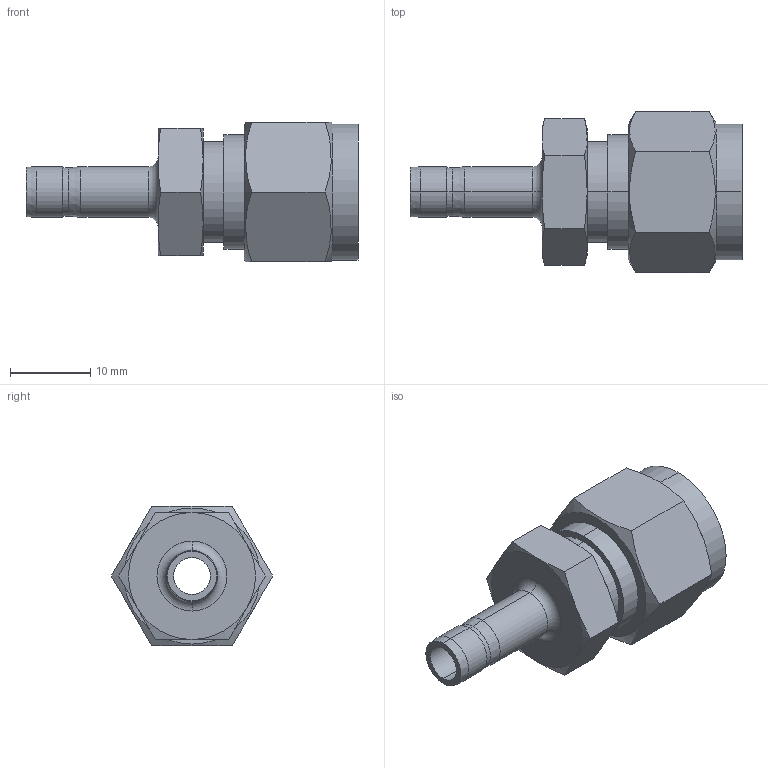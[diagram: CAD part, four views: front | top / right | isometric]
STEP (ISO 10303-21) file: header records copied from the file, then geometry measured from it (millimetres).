
FILE_DESCRIPTION (( 'STEP AP203' ), '1' );
FILE_NAME ('DRE06-04 SS.STEP', '2009-09-08T08:37:53', ( ' ' ), ( '' ), 'SwSTEP 2.0', 'SolidWorks 2008', '' );
FILE_SCHEMA (( 'CONFIG_CONTROL_DESIGN' ));
Length unit declared in the file: millimetre
Products named in the file (1): DRE06-04 SS
Bounding box: 41.5 x 20.16 x 17.46 mm (x, y, z)
Volume: 4388.7 mm3; surface area: 3201.9 mm2
Topology: 1 solids, 1 shells, 63 faces, 138 edges, 82 vertices
Faces by surface type: cone 24, plane 19, cylinder 18, torus 2
Entity records: 1925 total; most frequent: CARTESIAN_POINT 500, DIRECTION 282, ORIENTED_EDGE 276, EDGE_CURVE 138, AXIS2_PLACEMENT_3D 120, VERTEX_POINT 82, EDGE_LOOP 70, ADVANCED_FACE 63
